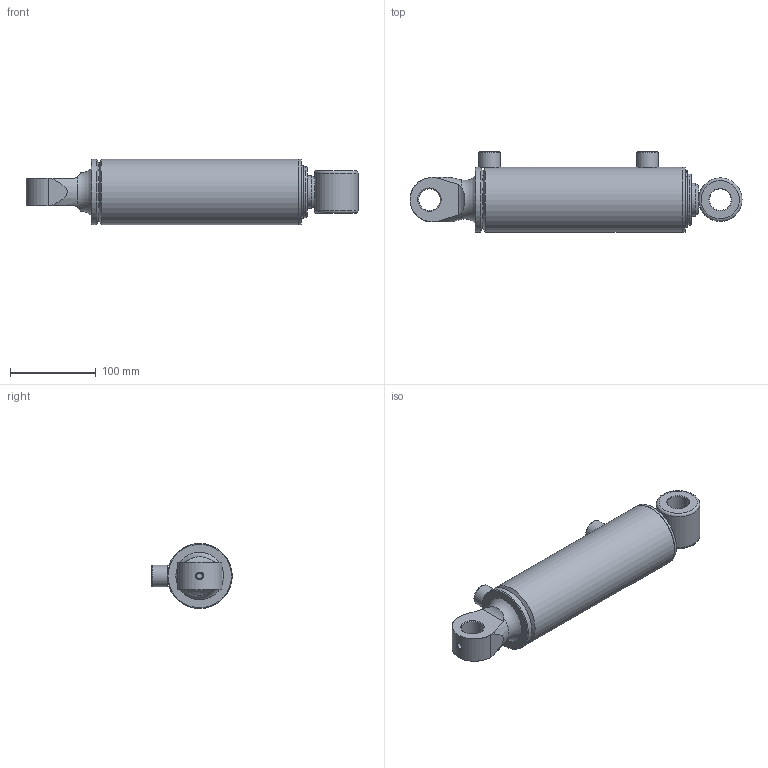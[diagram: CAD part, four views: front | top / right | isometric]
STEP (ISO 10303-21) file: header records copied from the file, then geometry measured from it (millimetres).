
FILE_DESCRIPTION(/* description */ ('Alibre Inc.'),/* implementation_level */ '2;1');
FILE_NAME(/* name */ 'export0',/* time_stamp */ '2016-08-16T09:54:36+12:00',/* author */ (''),/* organization */ (''),/* preprocessor_version */ 'ST-DEVELOPER v14',/* originating_system */ 'Alibre',/* authorisation */ '');
FILE_SCHEMA (('AUTOMOTIVE_DESIGN'));
Length unit declared in the file: centimetre
Bounding box: 388.13 x 94.2 x 76.2 mm (x, y, z)
Volume: 969510.7 mm3; surface area: 233976.8 mm2
Topology: 12 solids, 12 shells, 150 faces, 308 edges, 192 vertices
Faces by surface type: cylinder 55, plane 51, cone 28, torus 13, sphere 2, bspline 1
Full cylindrical faces by diameter (mm): 2.5 x2, 7 x3, 8.3 x2, 8.8 x1, 15.25 x2, 23 x1, 23.622 x1, 25 x2, 25.4 x2, 25.45 x1, 38.1 x1, 38.18 x2, 38.35 x1, 44.45 x1, 47.62 x2, 47.63 x1, 48 x2, 50.8 x1, 56.5 x1, 57.66 x1, 58.9 x2, 59.87 x2, 60.2 x1, 62.13 x2, 63.39 x2, 63.4 x1, 63.5 x2, 66.7 x1, 76.2 x3
Entity records: 4139 total; most frequent: CARTESIAN_POINT 1185, DIRECTION 569, ORIENTED_EDGE 394, AXIS2_PLACEMENT_3D 300, FACE_BOUND 271, EDGE_LOOP 269, EDGE_CURVE 197, VERTEX_POINT 174
